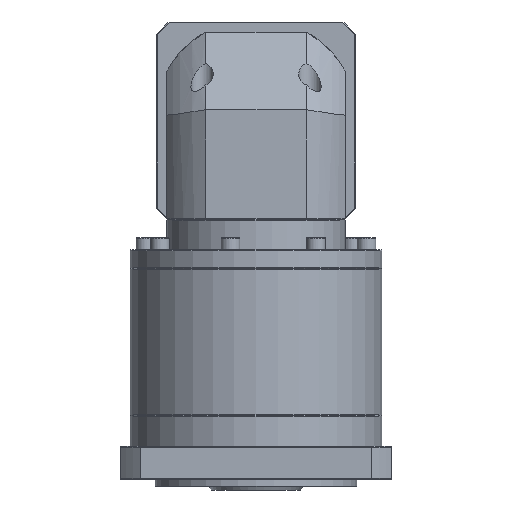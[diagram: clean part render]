
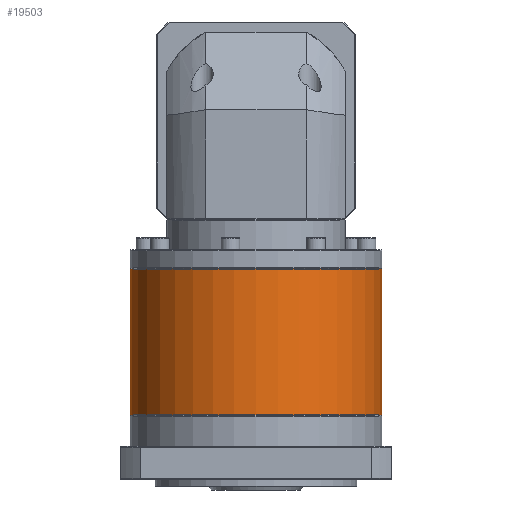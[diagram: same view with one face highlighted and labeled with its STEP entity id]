
A CAD part, front view. The second image highlights one B-rep face of the part: STEP entity #19503.
In plain terms, the highlighted cylindrical face has radius 81 mm (diameter 162 mm), a partial arc.
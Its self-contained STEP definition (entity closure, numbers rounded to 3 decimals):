
#6072 = DIRECTION ( 'NONE',  ( 0., 0., -1. ) ) ;
#9662 = DIRECTION ( 'NONE',  ( 0., 0., -1. ) ) ;
#19420 = CIRCLE ( 'NONE', #72214, 81. ) ;
#19503 = ADVANCED_FACE ( 'NONE', ( #120680 ), #26446, .T. ) ;
#19742 = DIRECTION ( 'NONE',  ( -1., 0., 0. ) ) ;
#22421 = EDGE_CURVE ( 'NONE', #74818, #34148, #19420, .T. ) ;
#26446 = CYLINDRICAL_SURFACE ( 'NONE', #77401, 81. ) ;
#29034 = DIRECTION ( 'NONE',  ( 0., 0., 1. ) ) ;
#34148 = VERTEX_POINT ( 'NONE', #94281 ) ;
#37387 = VECTOR ( 'NONE', #6072, 1000. ) ;
#51779 = ORIENTED_EDGE ( 'NONE', *, *, #95491, .T. ) ;
#54624 = CARTESIAN_POINT ( 'NONE',  ( -175.02, 88.454, -214.754 ) ) ;
#59055 = CARTESIAN_POINT ( 'NONE',  ( -13.02, 88.454, -121.254 ) ) ;
#69874 = EDGE_LOOP ( 'NONE', ( #73786, #51779, #82155, #106480 ) ) ;
#70674 = CARTESIAN_POINT ( 'NONE',  ( -175.02, 88.454, -120.754 ) ) ;
#71410 = DIRECTION ( 'NONE',  ( 0., 0., -1. ) ) ;
#71567 = DIRECTION ( 'NONE',  ( 0., 0., -1. ) ) ;
#72214 = AXIS2_PLACEMENT_3D ( 'NONE', #72487, #29034, #83128 ) ;
#72487 = CARTESIAN_POINT ( 'NONE',  ( -94.02, 88.454, -214.754 ) ) ;
#73559 = CARTESIAN_POINT ( 'NONE',  ( -175.02, 88.454, -121.254 ) ) ;
#73786 = ORIENTED_EDGE ( 'NONE', *, *, #109550, .F. ) ;
#74818 = VERTEX_POINT ( 'NONE', #54624 ) ;
#75562 = VECTOR ( 'NONE', #71410, 1000. ) ;
#75725 = AXIS2_PLACEMENT_3D ( 'NONE', #84020, #9662, #83568 ) ;
#77401 = AXIS2_PLACEMENT_3D ( 'NONE', #124564, #71567, #19742 ) ;
#82155 = ORIENTED_EDGE ( 'NONE', *, *, #121599, .T. ) ;
#83128 = DIRECTION ( 'NONE',  ( -1., 0., 0. ) ) ;
#83568 = DIRECTION ( 'NONE',  ( -1., 0., 0. ) ) ;
#84020 = CARTESIAN_POINT ( 'NONE',  ( -94.02, 88.454, -121.254 ) ) ;
#87001 = VERTEX_POINT ( 'NONE', #59055 ) ;
#94281 = CARTESIAN_POINT ( 'NONE',  ( -13.02, 88.454, -214.754 ) ) ;
#95491 = EDGE_CURVE ( 'NONE', #87001, #125730, #126059, .T. ) ;
#102772 = CARTESIAN_POINT ( 'NONE',  ( -13.02, 88.454, -120.754 ) ) ;
#106480 = ORIENTED_EDGE ( 'NONE', *, *, #22421, .T. ) ;
#109550 = EDGE_CURVE ( 'NONE', #87001, #34148, #125040, .T. ) ;
#118348 = LINE ( 'NONE', #70674, #37387 ) ;
#120680 = FACE_OUTER_BOUND ( 'NONE', #69874, .T. ) ;
#121599 = EDGE_CURVE ( 'NONE', #125730, #74818, #118348, .T. ) ;
#124564 = CARTESIAN_POINT ( 'NONE',  ( -94.02, 88.454, -120.754 ) ) ;
#125040 = LINE ( 'NONE', #102772, #75562 ) ;
#125730 = VERTEX_POINT ( 'NONE', #73559 ) ;
#126059 = CIRCLE ( 'NONE', #75725, 81. ) ;
